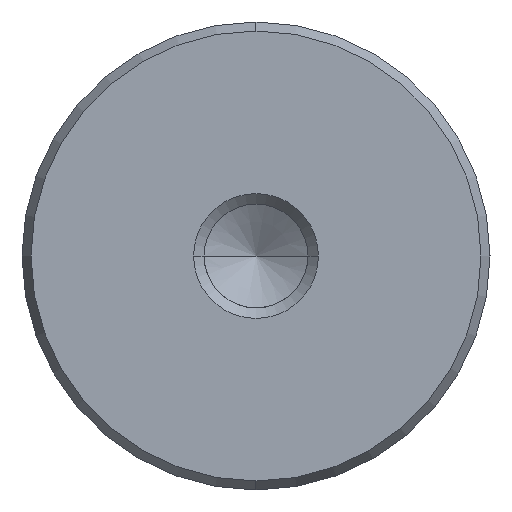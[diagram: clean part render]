
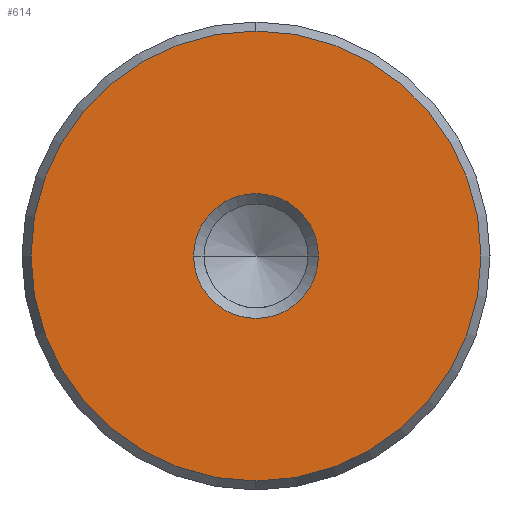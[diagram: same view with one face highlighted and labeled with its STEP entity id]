
A CAD part, left-side view. The second image highlights one B-rep face of the part: STEP entity #614.
In plain terms, the highlighted planar face has unit normal (-1, 0, 0).
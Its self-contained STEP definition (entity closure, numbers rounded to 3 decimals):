
#528=CARTESIAN_POINT('Vertex',(0.,0.,-14.423)) ;
#531=CARTESIAN_POINT('Axis2P3D Location',(0.,0.,0.)) ;
#535=CARTESIAN_POINT('Vertex',(0.,14.423,0.)) ;
#538=CARTESIAN_POINT('Axis2P3D Location',(0.,0.,0.)) ;
#542=CARTESIAN_POINT('Vertex',(0.,0.,14.423)) ;
#564=CARTESIAN_POINT('Axis2P3D Location',(0.,0.,0.)) ;
#568=CARTESIAN_POINT('Vertex',(0.,-14.423,0.)) ;
#571=CARTESIAN_POINT('Axis2P3D Location',(0.,0.,0.)) ;
#585=CARTESIAN_POINT('Axis2P3D Location',(0.,0.,0.)) ;
#596=CARTESIAN_POINT('Axis2P3D Location',(0.,0.,0.)) ;
#600=CARTESIAN_POINT('Vertex',(0.,4.,0.)) ;
#602=CARTESIAN_POINT('Vertex',(0.,-4.,0.)) ;
#605=CARTESIAN_POINT('Axis2P3D Location',(0.,0.,0.)) ;
#532=DIRECTION('Axis2P3D Direction',(1.,0.,-0.)) ;
#539=DIRECTION('Axis2P3D Direction',(1.,0.,-0.)) ;
#565=DIRECTION('Axis2P3D Direction',(1.,0.,-0.)) ;
#572=DIRECTION('Axis2P3D Direction',(1.,0.,-0.)) ;
#586=DIRECTION('Axis2P3D Direction',(1.,0.,-0.)) ;
#587=DIRECTION('Axis2P3D XDirection',(-0.,0.,-1.)) ;
#597=DIRECTION('Axis2P3D Direction',(1.,0.,-0.)) ;
#606=DIRECTION('Axis2P3D Direction',(1.,0.,-0.)) ;
#533=AXIS2_PLACEMENT_3D('Circle Axis2P3D',#531,#532,$) ;
#540=AXIS2_PLACEMENT_3D('Circle Axis2P3D',#538,#539,$) ;
#566=AXIS2_PLACEMENT_3D('Circle Axis2P3D',#564,#565,$) ;
#573=AXIS2_PLACEMENT_3D('Circle Axis2P3D',#571,#572,$) ;
#588=AXIS2_PLACEMENT_3D('Plane Axis2P3D',#585,#586,#587) ;
#598=AXIS2_PLACEMENT_3D('Circle Axis2P3D',#596,#597,$) ;
#607=AXIS2_PLACEMENT_3D('Circle Axis2P3D',#605,#606,$) ;
#591=ORIENTED_EDGE('',*,*,#537,.F.) ;
#592=ORIENTED_EDGE('',*,*,#575,.F.) ;
#593=ORIENTED_EDGE('',*,*,#570,.F.) ;
#594=ORIENTED_EDGE('',*,*,#544,.F.) ;
#611=ORIENTED_EDGE('',*,*,#604,.T.) ;
#612=ORIENTED_EDGE('',*,*,#609,.T.) ;
#613=FACE_BOUND('',#610,.T.) ;
#614=ADVANCED_FACE('720-30x160',(#595,#613),#589,.F.) ;
#534=CIRCLE('generated circle',#533,14.423) ;
#541=CIRCLE('generated circle',#540,14.423) ;
#567=CIRCLE('generated circle',#566,14.423) ;
#574=CIRCLE('generated circle',#573,14.423) ;
#599=CIRCLE('generated circle',#598,4.) ;
#608=CIRCLE('generated circle',#607,4.) ;
#537=EDGE_CURVE('',#529,#536,#534,.T.) ;
#544=EDGE_CURVE('',#536,#543,#541,.T.) ;
#570=EDGE_CURVE('',#543,#569,#567,.T.) ;
#575=EDGE_CURVE('',#569,#529,#574,.T.) ;
#604=EDGE_CURVE('',#601,#603,#599,.T.) ;
#609=EDGE_CURVE('',#603,#601,#608,.T.) ;
#590=EDGE_LOOP('',(#591,#592,#593,#594)) ;
#610=EDGE_LOOP('',(#611,#612)) ;
#595=FACE_OUTER_BOUND('',#590,.T.) ;
#589=PLANE('Plane',#588) ;
#529=VERTEX_POINT('',#528) ;
#536=VERTEX_POINT('',#535) ;
#543=VERTEX_POINT('',#542) ;
#569=VERTEX_POINT('',#568) ;
#601=VERTEX_POINT('',#600) ;
#603=VERTEX_POINT('',#602) ;
